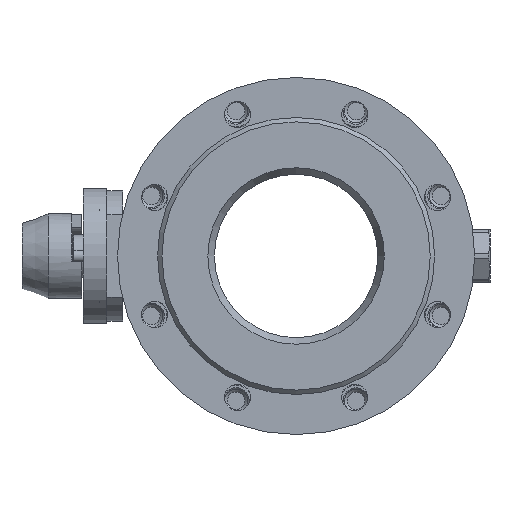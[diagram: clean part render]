
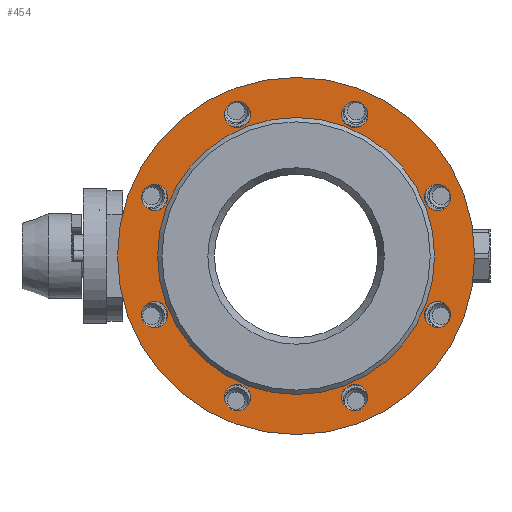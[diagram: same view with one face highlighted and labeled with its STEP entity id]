
A CAD part, left-side view. The second image highlights one B-rep face of the part: STEP entity #454.
In plain terms, the highlighted planar face has unit normal (-1, 0, 0).
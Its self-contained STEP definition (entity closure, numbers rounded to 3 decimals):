
#454=ADVANCED_FACE('',(#3409,#3411,#3413,#3415,#3417,#3419,#3421,#3423,#3425,#3427),
#3429,.T.);
#3409=FACE_BOUND('',#3410,.T.);
#3410=EDGE_LOOP('',(#6704));
#3411=FACE_BOUND('',#3412,.T.);
#3412=EDGE_LOOP('',(#6705));
#3413=FACE_BOUND('',#3414,.T.);
#3414=EDGE_LOOP('',(#6706));
#3415=FACE_BOUND('',#3416,.T.);
#3416=EDGE_LOOP('',(#6707));
#3417=FACE_BOUND('',#3418,.T.);
#3418=EDGE_LOOP('',(#6708));
#3419=FACE_BOUND('',#3420,.T.);
#3420=EDGE_LOOP('',(#6709));
#3421=FACE_BOUND('',#3422,.T.);
#3422=EDGE_LOOP('',(#6710));
#3423=FACE_BOUND('',#3424,.T.);
#3424=EDGE_LOOP('',(#6711));
#3425=FACE_BOUND('',#3426,.T.);
#3426=EDGE_LOOP('',(#6712));
#3427=FACE_OUTER_BOUND('',#3428,.T.);
#3428=EDGE_LOOP('',(#6713));
#3429=PLANE('',#3430);
#3430=AXIS2_PLACEMENT_3D('',#3431,#3432,#3433);
#3431=CARTESIAN_POINT('',(-152.,0.,0.));
#3432=DIRECTION('',(-1.,0.,0.));
#3433=DIRECTION('',(0.,1.,0.));
#6704=ORIENTED_EDGE('',*,*,#8490,.T.);
#6705=ORIENTED_EDGE('',*,*,#8488,.T.);
#6706=ORIENTED_EDGE('',*,*,#8486,.T.);
#6707=ORIENTED_EDGE('',*,*,#8485,.T.);
#6708=ORIENTED_EDGE('',*,*,#8529,.T.);
#6709=ORIENTED_EDGE('',*,*,#8483,.T.);
#6710=ORIENTED_EDGE('',*,*,#8481,.T.);
#6711=ORIENTED_EDGE('',*,*,#8479,.T.);
#6712=ORIENTED_EDGE('',*,*,#8477,.T.);
#6713=ORIENTED_EDGE('',*,*,#8475,.F.);
#8475=EDGE_CURVE('',#10272,#10272,#10274,.T.);
#8477=EDGE_CURVE('',#10275,#10275,#10277,.F.);
#8479=EDGE_CURVE('',#10278,#10278,#10280,.F.);
#8481=EDGE_CURVE('',#10281,#10281,#10283,.F.);
#8483=EDGE_CURVE('',#10284,#10284,#10286,.F.);
#8485=EDGE_CURVE('',#10287,#10287,#10289,.F.);
#8486=EDGE_CURVE('',#10290,#10290,#10291,.F.);
#8488=EDGE_CURVE('',#10293,#10293,#10294,.F.);
#8490=EDGE_CURVE('',#10296,#10296,#10297,.F.);
#8529=EDGE_CURVE('',#10361,#10361,#10362,.T.);
#10272=VERTEX_POINT('',#20694);
#10274=CIRCLE('',#20698,122.5);
#10275=VERTEX_POINT('',#20702);
#10277=CIRCLE('',#20706,9.);
#10278=VERTEX_POINT('',#20710);
#10280=CIRCLE('',#20714,9.);
#10281=VERTEX_POINT('',#20718);
#10283=CIRCLE('',#20722,9.);
#10284=VERTEX_POINT('',#20726);
#10286=CIRCLE('',#20730,9.);
#10287=VERTEX_POINT('',#20734);
#10289=CIRCLE('',#20738,9.);
#10290=VERTEX_POINT('',#20742);
#10291=CIRCLE('',#20743,9.);
#10293=VERTEX_POINT('',#20750);
#10294=CIRCLE('',#20751,9.);
#10296=VERTEX_POINT('',#20758);
#10297=CIRCLE('',#20759,9.);
#10361=VERTEX_POINT('',#21191);
#10362=CIRCLE('',#21192,95.);
#20694=CARTESIAN_POINT('',(-152.,122.5,0.));
#20698=AXIS2_PLACEMENT_3D('',#20699,#20700,#20701);
#20699=CARTESIAN_POINT('',(-152.,0.,0.));
#20700=DIRECTION('',(1.,-0.,-0.));
#20701=DIRECTION('',(0.,1.,0.));
#20702=CARTESIAN_POINT('',(-152.,-33.818,-103.371));
#20706=AXIS2_PLACEMENT_3D('',#20707,#20708,#20709);
#20707=CARTESIAN_POINT('',(-152.,-40.182,-97.007));
#20708=DIRECTION('',(-1.,0.,0.));
#20709=DIRECTION('',(0.,0.707,-0.707));
#20710=CARTESIAN_POINT('',(-152.,103.371,-33.818));
#20714=AXIS2_PLACEMENT_3D('',#20715,#20716,#20717);
#20715=CARTESIAN_POINT('',(-152.,97.007,-40.182));
#20716=DIRECTION('',(-1.,0.,0.));
#20717=DIRECTION('',(0.,0.707,0.707));
#20718=CARTESIAN_POINT('',(-152.,33.818,103.371));
#20722=AXIS2_PLACEMENT_3D('',#20723,#20724,#20725);
#20723=CARTESIAN_POINT('',(-152.,40.182,97.007));
#20724=DIRECTION('',(-1.,0.,0.));
#20725=DIRECTION('',(-0.,-0.707,0.707));
#20726=CARTESIAN_POINT('',(-152.,-103.371,33.818));
#20730=AXIS2_PLACEMENT_3D('',#20731,#20732,#20733);
#20731=CARTESIAN_POINT('',(-152.,-97.007,40.182));
#20732=DIRECTION('',(-1.,0.,0.));
#20733=DIRECTION('',(0.,-0.707,-0.707));
#20734=CARTESIAN_POINT('',(-152.,-97.007,-49.182));
#20738=AXIS2_PLACEMENT_3D('',#20739,#20740,#20741);
#20739=CARTESIAN_POINT('',(-152.,-97.007,-40.182));
#20740=DIRECTION('',(-1.,0.,0.));
#20741=DIRECTION('',(0.,0.,-1.));
#20742=CARTESIAN_POINT('',(-152.,-49.182,97.007));
#20743=AXIS2_PLACEMENT_3D('',#20744,#20745,#20746);
#20744=CARTESIAN_POINT('',(-152.,-40.182,97.007));
#20745=DIRECTION('',(-1.,0.,0.));
#20746=DIRECTION('',(0.,-1.,-0.));
#20750=CARTESIAN_POINT('',(-152.,97.007,49.182));
#20751=AXIS2_PLACEMENT_3D('',#20752,#20753,#20754);
#20752=CARTESIAN_POINT('',(-152.,97.007,40.182));
#20753=DIRECTION('',(-1.,0.,0.));
#20754=DIRECTION('',(0.,0.,1.));
#20758=CARTESIAN_POINT('',(-152.,49.182,-97.007));
#20759=AXIS2_PLACEMENT_3D('',#20760,#20761,#20762);
#20760=CARTESIAN_POINT('',(-152.,40.182,-97.007));
#20761=DIRECTION('',(-1.,0.,0.));
#20762=DIRECTION('',(0.,1.,0.));
#21191=CARTESIAN_POINT('',(-152.,95.,0.));
#21192=AXIS2_PLACEMENT_3D('',#21193,#21194,#21195);
#21193=CARTESIAN_POINT('',(-152.,0.,0.));
#21194=DIRECTION('',(1.,-0.,-0.));
#21195=DIRECTION('',(0.,1.,0.));
